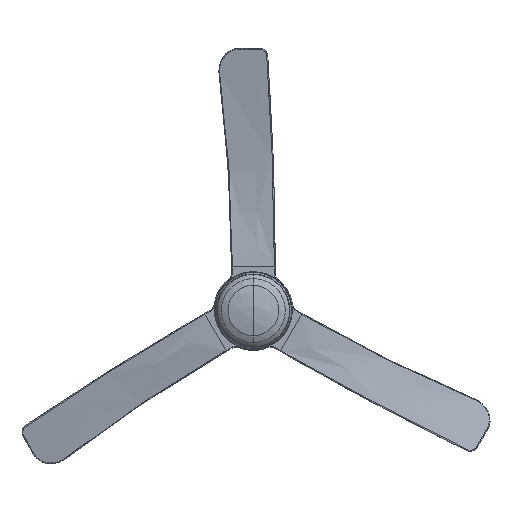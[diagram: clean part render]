
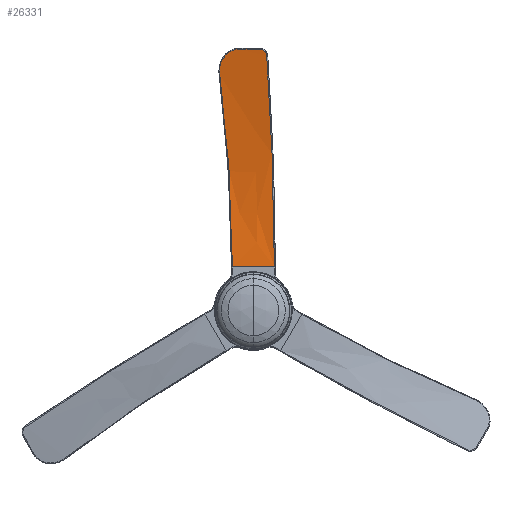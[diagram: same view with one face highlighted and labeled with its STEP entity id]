
A CAD part, top view. The second image highlights one B-rep face of the part: STEP entity #26331.
In plain terms, the highlighted free-form (B-spline) face has degree [3, 3] with [4, 13] control points.
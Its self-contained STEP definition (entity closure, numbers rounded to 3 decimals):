
#62=B_SPLINE_SURFACE_WITH_KNOTS('',3,3,((#57551,#57552,#57553,#57554,#57555,
#57556,#57557,#57558,#57559,#57560,#57561,#57562,#57563),(#57564,#57565,
#57566,#57567,#57568,#57569,#57570,#57571,#57572,#57573,#57574,#57575,#57576),
(#57577,#57578,#57579,#57580,#57581,#57582,#57583,#57584,#57585,#57586,
#57587,#57588,#57589),(#57590,#57591,#57592,#57593,#57594,#57595,#57596,
#57597,#57598,#57599,#57600,#57601,#57602)),.UNSPECIFIED.,.F.,.F.,.F.,(4,
4),(4,1,1,1,1,1,1,1,1,1,4),(0.,0.883),(0.,
0.109,0.123,0.125,0.25,0.313,0.438,0.487,0.5,
0.625,0.996),.UNSPECIFIED.);
#4375=LINE('',#57603,#6063);
#6063=VECTOR('',#36952,1.);
#8153=FACE_OUTER_BOUND('',#9654,.T.);
#9654=EDGE_LOOP('',(#24600,#24601,#24602,#24603,#24604,#24605));
#10154=B_SPLINE_CURVE_WITH_KNOTS('',3,(#55372,#55373,#55374,#55375,#55376,
#55377,#55378),.UNSPECIFIED.,.F.,.F.,(4,1,1,1,4),(0.,0.25,0.5,0.75,1.),
 .UNSPECIFIED.);
#10157=B_SPLINE_CURVE_WITH_KNOTS('',3,(#55652,#55653,#55654,#55655,#55656),
 .UNSPECIFIED.,.F.,.F.,(4,1,4),(0.,0.5,1.),.UNSPECIFIED.);
#10160=B_SPLINE_CURVE_WITH_KNOTS('',3,(#55694,#55695,#55696,#55697,#55698),
 .UNSPECIFIED.,.F.,.F.,(4,1,4),(0.,0.5,1.),.UNSPECIFIED.);
#10163=B_SPLINE_CURVE_WITH_KNOTS('',3,(#55916,#55917,#55918,#55919,#55920,
#55921,#55922),.UNSPECIFIED.,.F.,.F.,(4,1,1,1,4),(0.,0.25,0.5,0.75,1.),
 .UNSPECIFIED.);
#10166=B_SPLINE_CURVE_WITH_KNOTS('',3,(#56092,#56093,#56094,#56095,#56096,
#56097,#56098,#56099,#56100,#56101,#56102,#56103,#56104,#56105),
 .UNSPECIFIED.,.F.,.F.,(4,1,1,1,1,1,1,1,1,1,1,4),(0.,0.091,
0.182,0.273,0.364,0.455,
0.545,0.636,0.727,0.818,
0.909,1.),.UNSPECIFIED.);
#12665=VERTEX_POINT('',#55104);
#12667=VERTEX_POINT('',#55365);
#12669=VERTEX_POINT('',#55645);
#12671=VERTEX_POINT('',#55687);
#12673=VERTEX_POINT('',#55909);
#12675=VERTEX_POINT('',#56085);
#16623=EDGE_CURVE('',#12665,#12667,#10154,.T.);
#16626=EDGE_CURVE('',#12667,#12669,#10157,.T.);
#16629=EDGE_CURVE('',#12669,#12671,#10160,.T.);
#16632=EDGE_CURVE('',#12671,#12673,#10163,.T.);
#16635=EDGE_CURVE('',#12673,#12675,#10166,.T.);
#16705=EDGE_CURVE('',#12665,#12675,#4375,.T.);
#24600=ORIENTED_EDGE('',*,*,#16705,.F.);
#24601=ORIENTED_EDGE('',*,*,#16623,.T.);
#24602=ORIENTED_EDGE('',*,*,#16626,.T.);
#24603=ORIENTED_EDGE('',*,*,#16629,.T.);
#24604=ORIENTED_EDGE('',*,*,#16632,.T.);
#24605=ORIENTED_EDGE('',*,*,#16635,.T.);
#26331=ADVANCED_FACE('',(#8153),#62,.T.);
#36952=DIRECTION('',(-1.,0.,0.));
#55104=CARTESIAN_POINT('',(53.,109.98,274.686));
#55365=CARTESIAN_POINT('',(33.682,641.341,259.424));
#55372=CARTESIAN_POINT('Ctrl Pts',(53.,109.98,274.686));
#55373=CARTESIAN_POINT('Ctrl Pts',(52.858,154.35,274.679));
#55374=CARTESIAN_POINT('Ctrl Pts',(51.879,242.954,271.141));
#55375=CARTESIAN_POINT('Ctrl Pts',(48.228,375.719,263.325));
#55376=CARTESIAN_POINT('Ctrl Pts',(42.307,508.608,261.059));
#55377=CARTESIAN_POINT('Ctrl Pts',(36.818,597.133,260.326));
#55378=CARTESIAN_POINT('Ctrl Pts',(33.682,641.341,259.424));
#55645=CARTESIAN_POINT('',(15.716,658.085,254.563));
#55652=CARTESIAN_POINT('Ctrl Pts',(33.682,641.341,259.424));
#55653=CARTESIAN_POINT('Ctrl Pts',(32.8,646.558,259.178));
#55654=CARTESIAN_POINT('Ctrl Pts',(28.923,654.566,258.121));
#55655=CARTESIAN_POINT('Ctrl Pts',(20.822,657.721,255.937));
#55656=CARTESIAN_POINT('Ctrl Pts',(15.716,658.085,254.563));
#55687=CARTESIAN_POINT('',(-36.982,658.091,240.463));
#55694=CARTESIAN_POINT('Ctrl Pts',(15.716,658.085,254.563));
#55695=CARTESIAN_POINT('Ctrl Pts',(6.933,658.086,252.213));
#55696=CARTESIAN_POINT('Ctrl Pts',(-10.633,658.088,247.513));
#55697=CARTESIAN_POINT('Ctrl Pts',(-28.199,658.09,242.813));
#55698=CARTESIAN_POINT('Ctrl Pts',(-36.982,658.091,240.463));
#55909=CARTESIAN_POINT('',(-84.555,593.977,229.116));
#55916=CARTESIAN_POINT('Ctrl Pts',(-36.982,658.091,240.463));
#55917=CARTESIAN_POINT('Ctrl Pts',(-44.525,658.229,238.433));
#55918=CARTESIAN_POINT('Ctrl Pts',(-59.,654.019,234.656));
#55919=CARTESIAN_POINT('Ctrl Pts',(-75.857,638.221,230.528));
#55920=CARTESIAN_POINT('Ctrl Pts',(-84.834,616.922,228.625));
#55921=CARTESIAN_POINT('Ctrl Pts',(-85.534,601.441,228.739));
#55922=CARTESIAN_POINT('Ctrl Pts',(-84.555,593.977,229.116));
#56085=CARTESIAN_POINT('',(-53.,109.952,274.686));
#56092=CARTESIAN_POINT('Ctrl Pts',(-84.555,593.977,229.116));
#56093=CARTESIAN_POINT('Ctrl Pts',(-82.67,579.329,229.852));
#56094=CARTESIAN_POINT('Ctrl Pts',(-79.069,550.006,231.212));
#56095=CARTESIAN_POINT('Ctrl Pts',(-74.174,505.958,233.157));
#56096=CARTESIAN_POINT('Ctrl Pts',(-69.788,461.862,235.249));
#56097=CARTESIAN_POINT('Ctrl Pts',(-65.913,417.738,237.719));
#56098=CARTESIAN_POINT('Ctrl Pts',(-62.549,373.609,240.8));
#56099=CARTESIAN_POINT('Ctrl Pts',(-59.698,329.509,244.712));
#56100=CARTESIAN_POINT('Ctrl Pts',(-57.352,285.468,249.528));
#56101=CARTESIAN_POINT('Ctrl Pts',(-55.503,241.532,255.402));
#56102=CARTESIAN_POINT('Ctrl Pts',(-54.145,197.695,262.087));
#56103=CARTESIAN_POINT('Ctrl Pts',(-53.247,154.169,270.811));
#56104=CARTESIAN_POINT('Ctrl Pts',(-53.012,124.831,274.372));
#56105=CARTESIAN_POINT('Ctrl Pts',(-53.,109.952,274.686));
#57551=CARTESIAN_POINT('Ctrl Pts',(-79.508,109.943,274.686));
#57552=CARTESIAN_POINT('Ctrl Pts',(-79.514,130.21,274.687));
#57553=CARTESIAN_POINT('Ctrl Pts',(-79.357,152.462,269.722));
#57554=CARTESIAN_POINT('Ctrl Pts',(-79.211,175.101,264.727));
#57555=CARTESIAN_POINT('Ctrl Pts',(-79.052,200.575,259.198));
#57556=CARTESIAN_POINT('Ctrl Pts',(-78.898,235.085,252.891));
#57557=CARTESIAN_POINT('Ctrl Pts',(-78.896,292.095,244.809));
#57558=CARTESIAN_POINT('Ctrl Pts',(-79.125,335.575,240.255));
#57559=CARTESIAN_POINT('Ctrl Pts',(-79.539,370.022,237.585));
#57560=CARTESIAN_POINT('Ctrl Pts',(-80.041,404.503,235.208));
#57561=CARTESIAN_POINT('Ctrl Pts',(-81.93,498.302,230.462));
#57562=CARTESIAN_POINT('Ctrl Pts',(-84.91,590.03,229.554));
#57563=CARTESIAN_POINT('Ctrl Pts',(-86.606,658.09,227.185));
#57564=CARTESIAN_POINT('Ctrl Pts',(-35.339,109.955,274.686));
#57565=CARTESIAN_POINT('Ctrl Pts',(-35.344,130.121,274.686));
#57566=CARTESIAN_POINT('Ctrl Pts',(-35.224,152.409,271.248));
#57567=CARTESIAN_POINT('Ctrl Pts',(-35.143,175.107,267.688));
#57568=CARTESIAN_POINT('Ctrl Pts',(-35.06,200.645,263.731));
#57569=CARTESIAN_POINT('Ctrl Pts',(-35.049,235.197,259.019));
#57570=CARTESIAN_POINT('Ctrl Pts',(-35.318,292.198,252.677));
#57571=CARTESIAN_POINT('Ctrl Pts',(-35.759,335.628,248.914));
#57572=CARTESIAN_POINT('Ctrl Pts',(-36.311,370.04,246.688));
#57573=CARTESIAN_POINT('Ctrl Pts',(-36.936,404.485,244.717));
#57574=CARTESIAN_POINT('Ctrl Pts',(-39.072,498.168,240.881));
#57575=CARTESIAN_POINT('Ctrl Pts',(-42.107,589.83,240.437));
#57576=CARTESIAN_POINT('Ctrl Pts',(-43.938,658.095,238.602));
#57577=CARTESIAN_POINT('Ctrl Pts',(8.831,109.967,274.686));
#57578=CARTESIAN_POINT('Ctrl Pts',(8.825,130.033,274.686));
#57579=CARTESIAN_POINT('Ctrl Pts',(8.908,152.357,272.773));
#57580=CARTESIAN_POINT('Ctrl Pts',(8.925,175.113,270.65));
#57581=CARTESIAN_POINT('Ctrl Pts',(8.931,200.714,268.265));
#57582=CARTESIAN_POINT('Ctrl Pts',(8.799,235.308,265.146));
#57583=CARTESIAN_POINT('Ctrl Pts',(8.259,292.301,260.546));
#57584=CARTESIAN_POINT('Ctrl Pts',(7.607,335.681,257.573));
#57585=CARTESIAN_POINT('Ctrl Pts',(6.918,370.059,255.791));
#57586=CARTESIAN_POINT('Ctrl Pts',(6.17,404.467,254.226));
#57587=CARTESIAN_POINT('Ctrl Pts',(3.786,498.033,251.3));
#57588=CARTESIAN_POINT('Ctrl Pts',(0.695,589.631,251.319));
#57589=CARTESIAN_POINT('Ctrl Pts',(-1.27,658.1,250.018));
#57590=CARTESIAN_POINT('Ctrl Pts',(53.,109.979,274.686));
#57591=CARTESIAN_POINT('Ctrl Pts',(52.995,129.944,274.686));
#57592=CARTESIAN_POINT('Ctrl Pts',(53.04,152.304,274.299));
#57593=CARTESIAN_POINT('Ctrl Pts',(52.992,175.119,273.611));
#57594=CARTESIAN_POINT('Ctrl Pts',(52.923,200.784,272.799));
#57595=CARTESIAN_POINT('Ctrl Pts',(52.648,235.42,271.274));
#57596=CARTESIAN_POINT('Ctrl Pts',(51.836,292.404,268.414));
#57597=CARTESIAN_POINT('Ctrl Pts',(50.973,335.734,266.232));
#57598=CARTESIAN_POINT('Ctrl Pts',(50.147,370.078,264.894));
#57599=CARTESIAN_POINT('Ctrl Pts',(49.275,404.45,263.734));
#57600=CARTESIAN_POINT('Ctrl Pts',(46.645,497.898,261.719));
#57601=CARTESIAN_POINT('Ctrl Pts',(43.498,589.432,262.202));
#57602=CARTESIAN_POINT('Ctrl Pts',(41.399,658.106,261.435));
#57603=CARTESIAN_POINT('',(53.,109.98,274.686));
